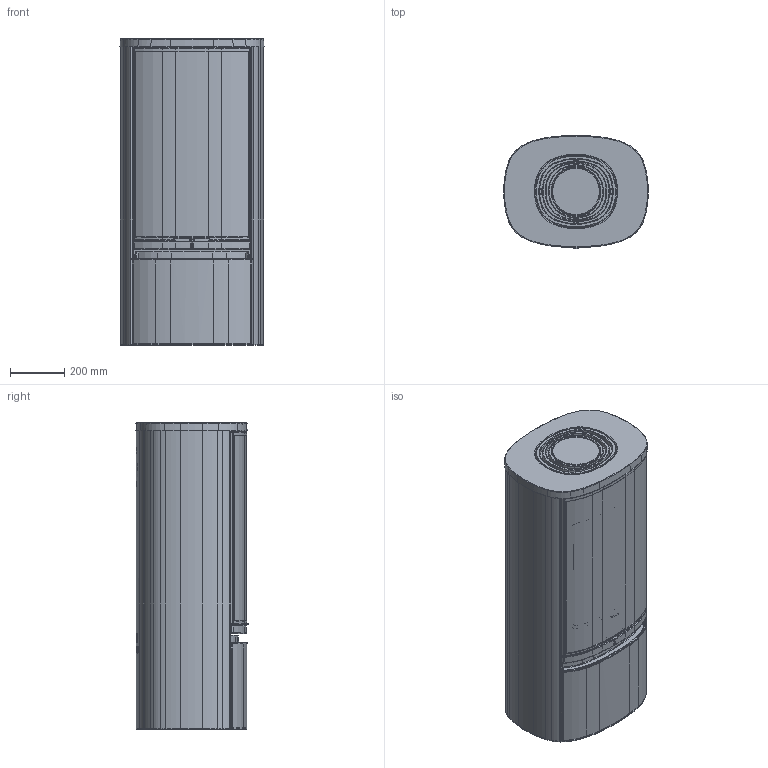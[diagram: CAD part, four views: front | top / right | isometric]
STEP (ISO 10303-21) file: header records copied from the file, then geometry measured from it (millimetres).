
FILE_DESCRIPTION(/* description */ ('Unknown'),/* implementation_level */ '2;1');
FILE_NAME(/* name */ 'DSN1111331_0_asm',/* time_stamp */ '2025-02-25T13:21:12+01:00',/* author */ ('Unknown'),/* organization */ ('NIBE AB'),/* preprocessor_version */ 'ST-DEVELOPER v18.102',/* originating_system */ 'Solid Edge',/* authorisation */ 'Unknown');
FILE_SCHEMA (('CONFIG_CONTROL_DESIGN','MODEL_BASED_INTEGRATED_MANUFACTURING_SCHEMA'));
Products named in the file (11): DSN1111331; DSN1110949; DSN1110923; DSN1110955; DSN1111155; DSN1111118; DSN1111371; DSN1111098; DSN1111090; DSN1111410; DSN1110968
Assembly tree (10 placements, depth 2):
  DSN1111331
    DSN1110949
    DSN1110923
    DSN1110955
    DSN1111155
    DSN1111118
    DSN1111371
    DSN1111098
    DSN1111090
    DSN1111410
    DSN1110968
Bounding box: 534.52 x 417.01 x 1135 mm (x, y, z)
Volume: 172062926.5 mm3; surface area: 9460290.1 mm2
Topology: 10 solids, 10 shells, 1454 faces, 3790 edges, 2399 vertices
Faces by surface type: plane 383, cylinder 372, bspline 353, torus 196, cone 138, sphere 12
Full cylindrical faces by diameter (mm): 5 x5, 176.4 x1, 180.592 x1, 213.2 x1
Entity records: 71977 total; most frequent: CARTESIAN_POINT 38052, ORIENTED_EDGE 7488, DIRECTION 6364, EDGE_CURVE 3744, AXIS2_PLACEMENT_3D 2535, VERTEX_POINT 2391, FACE_BOUND 1553, EDGE_LOOP 1552
